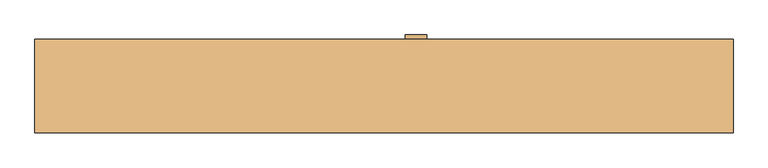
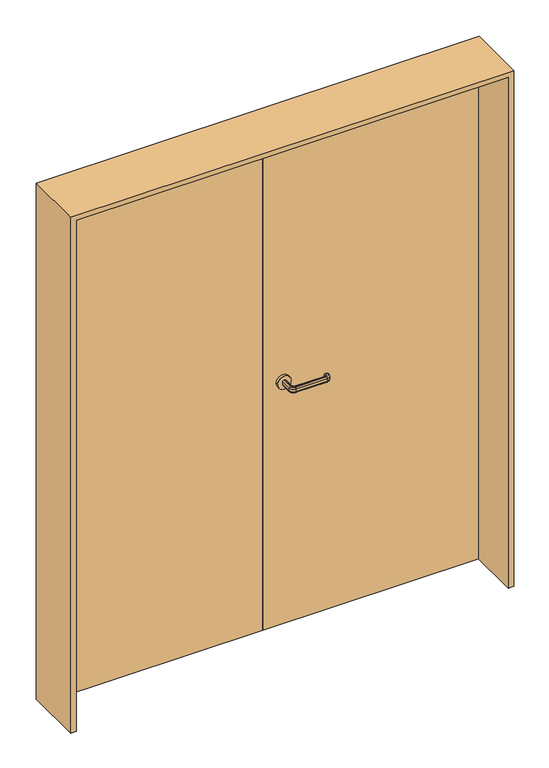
"""IFC4 building model written with IfcOpenShell, lengths in millimetres: door geometry, 両開 : SD-3 w1600h2000."""

from ifc_helpers import new_model, si_unit, point, frame, frame_2d, origin, origin_with_axes, place, context, project, spatial, polyline, circle_curve, ellipse_curve, trimmed, segment, composite_curve, outline, extrude, source, transform, mapped, element, save
from ifc_brep_helpers import plane_surface, cylinder_surface, revolved_surface, advanced_brep


def door_42131a66(model_context):
    return source(origin(), model_context, "Body", "SolidModel", [
        advanced_brep(
        [(77.0, 70.0, 940.0), (73.0, 70.0, 940.0), (68.0, 70.0, 945.0), (68.0, 70.0, 955.0), (73.0, 70.0, 960.0), (77.0, 70.0, 960.0), (82.0, 70.0, 955.0), (82.0, 70.0, 945.0), (77.0, 30.0, 940.0), (85.0, 22.0, 940.0), (200.0, 22.0, 940.0), (208.0, 30.0, 940.0), (208.0, 35.0, 940.0), (212.0, 35.0, 940.0), (212.0, 30.0, 940.0), (200.0, 18.0, 940.0), (85.0, 18.0, 940.0), (73.0, 30.0, 940.0), (68.0, 30.0, 945.0), (68.0, 30.0, 955.0), (73.0, 30.0, 960.0), (85.0, 18.0, 960.0), (200.0, 18.0, 960.0), (212.0, 30.0, 960.0), (212.0, 35.0, 960.0), (208.0, 35.0, 960.0), (208.0, 30.0, 960.0), (200.0, 22.0, 960.0), (85.0, 22.0, 960.0), (77.0, 30.0, 960.0), (82.0, 30.0, 955.0), (82.0, 30.0, 945.0), (85.0, 13.0, 945.0), (85.0, 13.0, 955.0), (85.0, 27.0, 955.0), (85.0, 27.0, 945.0), (200.0, 13.0, 945.0), (200.0, 13.0, 955.0), (200.0, 27.0, 955.0), (200.0, 27.0, 945.0), (217.0, 30.0, 945.0), (217.0, 30.0, 955.0), (203.0, 30.0, 955.0), (203.0, 30.0, 945.0), (203.0, 35.0, 945.0), (203.0, 35.0, 955.0), (217.0, 35.0, 955.0), (217.0, 35.0, 945.0)],
        [
            (0, 1),
            (1, 2, circle_curve(frame((73.0, 70.0, 945.0), z_axis=(0.0, 1.0, 0.0), x_axis=(1.0, 0.0, 0.0)), 5.0)),
            (2, 3),
            (3, 4, circle_curve(frame((73.0, 70.0, 955.0), z_axis=(0.0, 1.0, 0.0), x_axis=(1.0, 0.0, 0.0)), 5.0)),
            (4, 5),
            (5, 6, circle_curve(frame((77.0, 70.0, 955.0), z_axis=(0.0, 1.0, 0.0), x_axis=(1.0, 0.0, 0.0)), 5.0)),
            (6, 7),
            (7, 0, circle_curve(frame((77.0, 70.0, 945.0), z_axis=(0.0, 1.0, 0.0), x_axis=(1.0, 0.0, 0.0)), 5.0)),
            (0, 8),
            (8, 9, circle_curve(frame((85.0, 30.0, 940.0), z_axis=(0.0, 0.0, 1.0), x_axis=(-1.0, 0.0, 0.0)), 8.0)),
            (9, 10),
            (10, 11, circle_curve(frame((200.0, 30.0, 940.0), z_axis=(0.0, 0.0, 1.0), x_axis=(0.0, -1.0, 0.0)), 8.0)),
            (11, 12),
            (12, 13),
            (13, 14),
            (14, 15, circle_curve(frame((200.0, 30.0, 940.0), z_axis=(0.0, 0.0, -1.0), x_axis=(0.0, -1.0, 0.0)), 12.0)),
            (15, 16),
            (16, 17, circle_curve(frame((85.0, 30.0, 940.0), z_axis=(0.0, 0.0, -1.0), x_axis=(-1.0, 0.0, 0.0)), 12.0)),
            (17, 1),
            (17, 18, circle_curve(frame((73.0, 30.0, 945.0), z_axis=(0.0, 1.0, 0.0), x_axis=(1.0, 0.0, 0.0)), 5.0)),
            (18, 2),
            (18, 19),
            (19, 3),
            (19, 20, circle_curve(frame((73.0, 30.0, 955.0), z_axis=(0.0, 1.0, 0.0), x_axis=(1.0, 0.0, 0.0)), 5.0)),
            (20, 4),
            (20, 21, circle_curve(frame((85.0, 30.0, 960.0), z_axis=(0.0, 0.0, 1.0), x_axis=(-1.0, 0.0, 0.0)), 12.0)),
            (21, 22),
            (22, 23, circle_curve(frame((200.0, 30.0, 960.0), z_axis=(0.0, 0.0, 1.0), x_axis=(0.0, -1.0, 0.0)), 12.0)),
            (23, 24),
            (24, 25),
            (25, 26),
            (26, 27, circle_curve(frame((200.0, 30.0, 960.0), z_axis=(0.0, 0.0, -1.0), x_axis=(0.0, -1.0, 0.0)), 8.0)),
            (27, 28),
            (28, 29, circle_curve(frame((85.0, 30.0, 960.0), z_axis=(0.0, 0.0, -1.0), x_axis=(-1.0, 0.0, 0.0)), 8.0)),
            (29, 5),
            (29, 30, circle_curve(frame((77.0, 30.0, 955.0), z_axis=(0.0, 1.0, 0.0), x_axis=(1.0, 0.0, 0.0)), 5.0)),
            (30, 6),
            (30, 31),
            (31, 7),
            (31, 8, circle_curve(frame((77.0, 30.0, 945.0), z_axis=(0.0, 1.0, 0.0), x_axis=(1.0, 0.0, 0.0)), 5.0)),
            (32, 18, circle_curve(frame((85.0, 30.0, 945.0), z_axis=(0.0, 0.0, -1.0), x_axis=(-1.0, 0.0, 0.0)), 17.0)),
            (16, 32, circle_curve(frame((85.0, 18.0, 945.0), z_axis=(-1.0, 0.0, 0.0), x_axis=(0.0, 1.0, 0.0)), 5.0)),
            (33, 19, circle_curve(frame((85.0, 30.0, 955.0), z_axis=(0.0, 0.0, -1.0), x_axis=(-1.0, 0.0, 0.0)), 17.0)),
            (32, 33),
            (33, 21, circle_curve(frame((85.0, 18.0, 955.0), z_axis=(-1.0, 0.0, 0.0), x_axis=(0.0, 1.0, 0.0)), 5.0)),
            (34, 30, circle_curve(frame((85.0, 30.0, 955.0), z_axis=(0.0, 0.0, -1.0), x_axis=(-1.0, 0.0, 0.0)), 3.0)),
            (28, 34, circle_curve(frame((85.0, 22.0, 955.0), z_axis=(-1.0, 0.0, 0.0), x_axis=(0.0, 1.0, 0.0)), 5.0)),
            (35, 31, circle_curve(frame((85.0, 30.0, 945.0), z_axis=(0.0, 0.0, -1.0), x_axis=(-1.0, 0.0, 0.0)), 3.0)),
            (34, 35),
            (35, 9, circle_curve(frame((85.0, 22.0, 945.0), z_axis=(-1.0, 0.0, 0.0), x_axis=(0.0, 1.0, 0.0)), 5.0)),
            (15, 36, circle_curve(frame((200.0, 18.0, 945.0), z_axis=(-1.0, 0.0, 0.0), x_axis=(0.0, 1.0, 0.0)), 5.0)),
            (36, 32),
            (36, 37),
            (37, 33),
            (37, 22, circle_curve(frame((200.0, 18.0, 955.0), z_axis=(-1.0, 0.0, 0.0), x_axis=(0.0, 1.0, 0.0)), 5.0)),
            (27, 38, circle_curve(frame((200.0, 22.0, 955.0), z_axis=(-1.0, 0.0, 0.0), x_axis=(0.0, 1.0, 0.0)), 5.0)),
            (38, 34),
            (38, 39),
            (39, 35),
            (39, 10, circle_curve(frame((200.0, 22.0, 945.0), z_axis=(-1.0, 0.0, 0.0), x_axis=(0.0, 1.0, 0.0)), 5.0)),
            (40, 36, circle_curve(frame((200.0, 30.0, 945.0), z_axis=(0.0, 0.0, -1.0), x_axis=(0.0, -1.0, 0.0)), 17.0)),
            (14, 40, circle_curve(frame((212.0, 30.0, 945.0), z_axis=(0.0, -1.0, 0.0), x_axis=(-1.0, 0.0, 0.0)), 5.0)),
            (41, 37, circle_curve(frame((200.0, 30.0, 955.0), z_axis=(0.0, 0.0, -1.0), x_axis=(0.0, -1.0, 0.0)), 17.0)),
            (40, 41),
            (41, 23, circle_curve(frame((212.0, 30.0, 955.0), z_axis=(0.0, -1.0, 0.0), x_axis=(-1.0, 0.0, 0.0)), 5.0)),
            (42, 38, circle_curve(frame((200.0, 30.0, 955.0), z_axis=(0.0, 0.0, -1.0), x_axis=(0.0, -1.0, 0.0)), 3.0)),
            (26, 42, circle_curve(frame((208.0, 30.0, 955.0), z_axis=(0.0, -1.0, 0.0), x_axis=(-1.0, 0.0, 0.0)), 5.0)),
            (43, 39, circle_curve(frame((200.0, 30.0, 945.0), z_axis=(0.0, 0.0, -1.0), x_axis=(0.0, -1.0, 0.0)), 3.0)),
            (42, 43),
            (43, 11, circle_curve(frame((208.0, 30.0, 945.0), z_axis=(0.0, -1.0, 0.0), x_axis=(-1.0, 0.0, 0.0)), 5.0)),
            (12, 44, circle_curve(frame((208.0, 35.0, 945.0), z_axis=(0.0, 1.0, 0.0), x_axis=(-1.0, 0.0, 0.0)), 5.0)),
            (44, 45),
            (45, 25, circle_curve(frame((208.0, 35.0, 955.0), z_axis=(0.0, 1.0, 0.0), x_axis=(-1.0, 0.0, 0.0)), 5.0)),
            (24, 46, circle_curve(frame((212.0, 35.0, 955.0), z_axis=(0.0, 1.0, 0.0), x_axis=(-1.0, 0.0, 0.0)), 5.0)),
            (46, 47),
            (47, 13, circle_curve(frame((212.0, 35.0, 945.0), z_axis=(0.0, 1.0, 0.0), x_axis=(-1.0, 0.0, 0.0)), 5.0)),
            (47, 40),
            (46, 41),
            (45, 42),
            (44, 43),
        ],
        [
            plane_surface(frame((64.801961, 70.0, 950.0), z_axis=(0.0, 1.0, 0.0), x_axis=(0.0, 0.0, -1.0))),
            plane_surface(frame((77.0, 70.0, 940.0), z_axis=(0.0, 0.0, -1.0), x_axis=(0.0, -1.0, 0.0))),
            cylinder_surface(frame((73.0, 70.0, 945.0), z_axis=(0.0, 1.0, 0.0), x_axis=(1.0, 0.0, 0.0)), 5.0),
            plane_surface(frame((68.0, 70.0, 945.0), z_axis=(-1.0, 0.0, 0.0), x_axis=(0.0, -1.0, 0.0))),
            cylinder_surface(frame((73.0, 70.0, 955.0), z_axis=(0.0, 1.0, 0.0), x_axis=(1.0, 0.0, 0.0)), 5.0),
            plane_surface(frame((73.0, 70.0, 960.0), z_axis=(0.0, 0.0, 1.0), x_axis=(0.0, -1.0, 0.0))),
            cylinder_surface(frame((77.0, 70.0, 955.0), z_axis=(0.0, 1.0, 0.0), x_axis=(1.0, 0.0, 0.0)), 5.0),
            plane_surface(frame((82.0, 70.0, 955.0), z_axis=(1.0, 0.0, 0.0), x_axis=(0.0, -1.0, 0.0))),
            cylinder_surface(frame((77.0, 70.0, 945.0), z_axis=(0.0, 1.0, 0.0), x_axis=(1.0, 0.0, 0.0)), 5.0),
            revolved_surface(trimmed(ellipse_curve(frame((73.0, 30.0, 945.0), z_axis=(0.0, 1.0, 0.0), x_axis=(1.0, 0.0, 0.0)), 5.0, 5.0), [point((73.0, 30.0, 940.0))], [point((68.0, 30.0, 945.0))], True, "CARTESIAN"), (85.0, 30.0, 950.0), (0.0, 0.0, 1.0)),
            cylinder_surface(frame((85.0, 30.0, 950.0), z_axis=(0.0, 0.0, 1.0), x_axis=(-1.0, 0.0, 0.0)), 17.0),
            revolved_surface(trimmed(ellipse_curve(frame((73.0, 30.0, 955.0), z_axis=(0.0, 1.0, 0.0), x_axis=(1.0, 0.0, 0.0)), 5.0, 5.0), [point((68.0, 30.0, 955.0))], [point((73.0, 30.0, 960.0))], True, "CARTESIAN"), (85.0, 30.0, 950.0), (0.0, 0.0, 1.0)),
            revolved_surface(trimmed(ellipse_curve(frame((77.0, 30.0, 955.0), z_axis=(0.0, 1.0, 0.0), x_axis=(1.0, 0.0, 0.0)), 5.0, 5.0), [point((77.0, 30.0, 960.0))], [point((82.0, 30.0, 955.0))], True, "CARTESIAN"), (85.0, 30.0, 950.0), (0.0, 0.0, 1.0)),
            revolved_surface(polyline([(82.0, 30.0, 955.0), (82.0, 30.0, 945.0)]), (85.0, 30.0, 950.0), (0.0, 0.0, 1.0)),
            revolved_surface(trimmed(ellipse_curve(frame((77.0, 30.0, 945.0), z_axis=(0.0, 1.0, 0.0), x_axis=(1.0, 0.0, 0.0)), 5.0, 5.0), [point((82.0, 30.0, 945.0))], [point((77.0, 30.0, 940.0))], True, "CARTESIAN"), (85.0, 30.0, 950.0), (0.0, 0.0, 1.0)),
            cylinder_surface(frame((85.0, 18.0, 945.0), z_axis=(-1.0, 0.0, 0.0), x_axis=(0.0, 1.0, 0.0)), 5.0),
            plane_surface(frame((85.0, 13.0, 945.0), z_axis=(0.0, -1.0, 0.0), x_axis=(1.0, 0.0, 0.0))),
            cylinder_surface(frame((85.0, 18.0, 955.0), z_axis=(-1.0, 0.0, 0.0), x_axis=(0.0, 1.0, 0.0)), 5.0),
            cylinder_surface(frame((85.0, 22.0, 955.0), z_axis=(-1.0, 0.0, 0.0), x_axis=(0.0, 1.0, 0.0)), 5.0),
            plane_surface(frame((85.0, 27.0, 955.0), z_axis=(0.0, 1.0, 0.0), x_axis=(1.0, 0.0, 0.0))),
            cylinder_surface(frame((85.0, 22.0, 945.0), z_axis=(-1.0, 0.0, 0.0), x_axis=(0.0, 1.0, 0.0)), 5.0),
            revolved_surface(trimmed(ellipse_curve(frame((200.0, 18.0, 945.0), z_axis=(-1.0, 0.0, 0.0), x_axis=(0.0, 1.0, 0.0)), 5.0, 5.0), [point((200.0, 18.0, 940.0))], [point((200.0, 13.0, 945.0))], True, "CARTESIAN"), (200.0, 30.0, 950.0), (0.0, 0.0, 1.0)),
            cylinder_surface(frame((200.0, 30.0, 950.0), z_axis=(0.0, 0.0, 1.0), x_axis=(0.0, -1.0, 0.0)), 17.0),
            revolved_surface(trimmed(ellipse_curve(frame((200.0, 18.0, 955.0), z_axis=(-1.0, 0.0, 0.0), x_axis=(0.0, 1.0, 0.0)), 5.0, 5.0), [point((200.0, 13.0, 955.0))], [point((200.0, 18.0, 960.0))], True, "CARTESIAN"), (200.0, 30.0, 950.0), (0.0, 0.0, 1.0)),
            revolved_surface(trimmed(ellipse_curve(frame((200.0, 22.0, 955.0), z_axis=(-1.0, 0.0, 0.0), x_axis=(0.0, 1.0, 0.0)), 5.0, 5.0), [point((200.0, 22.0, 960.0))], [point((200.0, 27.0, 955.0))], True, "CARTESIAN"), (200.0, 30.0, 950.0), (0.0, 0.0, 1.0)),
            revolved_surface(polyline([(200.0, 27.0, 955.0), (200.0, 27.0, 945.0)]), (200.0, 30.0, 950.0), (0.0, 0.0, 1.0)),
            revolved_surface(trimmed(ellipse_curve(frame((200.0, 22.0, 945.0), z_axis=(-1.0, 0.0, 0.0), x_axis=(0.0, 1.0, 0.0)), 5.0, 5.0), [point((200.0, 27.0, 945.0))], [point((200.0, 22.0, 940.0))], True, "CARTESIAN"), (200.0, 30.0, 950.0), (0.0, 0.0, 1.0)),
            plane_surface(frame((199.801961, 35.0, 950.0), z_axis=(0.0, 1.0, 0.0), x_axis=(0.0, 0.0, 1.0))),
            cylinder_surface(frame((212.0, 30.0, 945.0), z_axis=(0.0, -1.0, 0.0), x_axis=(-1.0, 0.0, 0.0)), 5.0),
            plane_surface(frame((217.0, 30.0, 945.0), z_axis=(1.0, 0.0, 0.0), x_axis=(0.0, 1.0, 0.0))),
            cylinder_surface(frame((212.0, 30.0, 955.0), z_axis=(0.0, -1.0, 0.0), x_axis=(-1.0, 0.0, 0.0)), 5.0),
            cylinder_surface(frame((208.0, 30.0, 955.0), z_axis=(0.0, -1.0, 0.0), x_axis=(-1.0, 0.0, 0.0)), 5.0),
            plane_surface(frame((203.0, 30.0, 955.0), z_axis=(-1.0, 0.0, 0.0), x_axis=(0.0, 1.0, 0.0))),
            cylinder_surface(frame((208.0, 30.0, 945.0), z_axis=(0.0, -1.0, 0.0), x_axis=(-1.0, 0.0, 0.0)), 5.0),
        ],
        [
            (0, [[1, 2, 3, 4, 5, 6, 7, 8]]),
            (1, [[-1, 9, 10, 11, 12, 13, 14, 15, 16, 17, 18, 19]]),
            (2, [[-2, -19, 20, 21]]),
            (3, [[-3, -21, 22, 23]]),
            (4, [[-4, -23, 24, 25]]),
            (5, [[-5, -25, 26, 27, 28, 29, 30, 31, 32, 33, 34, 35]]),
            (6, [[-6, -35, 36, 37]]),
            (7, [[-7, -37, 38, 39]]),
            (8, [[-8, -39, 40, -9]]),
            (9, [[41, -20, -18, 42]]),
            (10, [[43, -22, -41, 44]]),
            (11, [[-26, -24, -43, 45]]),
            (12, [[46, -36, -34, 47]]),
            (13, [[48, -38, -46, 49]]),
            (14, [[-10, -40, -48, 50]]),
            (15, [[-42, -17, 51, 52]]),
            (16, [[-44, -52, 53, 54]]),
            (17, [[-45, -54, 55, -27]]),
            (18, [[-47, -33, 56, 57]]),
            (19, [[-49, -57, 58, 59]]),
            (20, [[-50, -59, 60, -11]]),
            (21, [[61, -51, -16, 62]]),
            (22, [[63, -53, -61, 64]]),
            (23, [[-28, -55, -63, 65]]),
            (24, [[66, -56, -32, 67]]),
            (25, [[68, -58, -66, 69]]),
            (26, [[-12, -60, -68, 70]]),
            (27, [[71, 72, 73, -30, 74, 75, 76, -14]]),
            (28, [[-62, -15, -76, 77]]),
            (29, [[-64, -77, -75, 78]]),
            (30, [[-65, -78, -74, -29]]),
            (31, [[-67, -31, -73, 79]]),
            (32, [[-69, -79, -72, 80]]),
            (33, [[-70, -80, -71, -13]]),
        ],
    ),
        extrude(outline(composite_curve([segment(trimmed(circle_curve(frame_2d((950.0, 75.0)), 25.0), [point((950.0, 50.0))], [point((950.0, 100.0))], False, "CARTESIAN"), True, "CONTINUOUS"), segment(trimmed(circle_curve(frame_2d((950.0, 75.0)), 25.0), [point((950.0, 100.0))], [point((950.0, 50.0))], False, "CARTESIAN"), True, "CONTINUOUS")], self_intersect=False)), frame((0.0, 110.0, 0.0), z_axis=(0.0, 1.0, 0.0), x_axis=(0.0, 0.0, 1.0)), (0.0, 0.0, 1.0), 10.0),
        extrude(outline(composite_curve([segment(trimmed(circle_curve(frame_2d((950.0, 75.0)), 25.0), [point((950.0, 50.0))], [point((950.0, 100.0))], False, "CARTESIAN"), True, "CONTINUOUS"), segment(trimmed(circle_curve(frame_2d((950.0, 75.0)), 25.0), [point((950.0, 100.0))], [point((950.0, 50.0))], False, "CARTESIAN"), True, "CONTINUOUS")], self_intersect=False)), frame((0.0, 70.0, 0.0), z_axis=(0.0, 1.0, 0.0), x_axis=(0.0, 0.0, 1.0)), (0.0, 0.0, 1.0), 10.0),
        extrude(outline(polyline([(0.0, 80.0), (-800.0, 80.0), (-800.0, 110.0), (0.0, 110.0), (0.0, 80.0)])), origin_with_axes(), (0.0, 0.0, 1.0), 2000.0),
        extrude(outline(polyline([(2020.0, -820.0), (0.0, -820.0), (0.0, -800.0), (2000.0, -800.0), (2000.0, 800.0), (0.0, 800.0), (0.0, 820.0), (2020.0, 820.0), (2020.0, -820.0)])), frame((0.0, -110.0, 0.0), z_axis=(0.0, 1.0, 0.0), x_axis=(0.0, 0.0, 1.0)), (0.0, 0.0, 1.0), 220.0),
        extrude(outline(polyline([(800.0, 80.0), (0.0, 80.0), (0.0, 110.0), (800.0, 110.0), (800.0, 80.0)])), origin_with_axes(), (0.0, 0.0, 1.0), 2000.0),
    ])


if __name__ == "__main__":
    model = new_model("IFC4")
    model_context = context("Model", 3, world=origin())
    ifc_project = project(units=[si_unit("LENGTHUNIT", "METRE", prefix="MILLI")], contexts=[model_context])
    site = spatial("IfcSite", under=ifc_project)
    building = spatial("IfcBuilding", under=site)
    placement = place(None, origin())
    door_shape = door_42131a66(model_context)
    element("IfcDoor", 1, ObjectType="両開 : SD-3 w1600h2000", at=placement, inside=building, context=model_context, shape_type="MappedRepresentation", body=[
        mapped(door_shape, transform((0.0, 0.0, 0.0), x_axis=(1.0, 0.0, 0.0), y_axis=(0.0, 1.0, 0.0), z_axis=(0.0, 0.0, 1.0))),
    ])
    save(model, "model.ifc")
